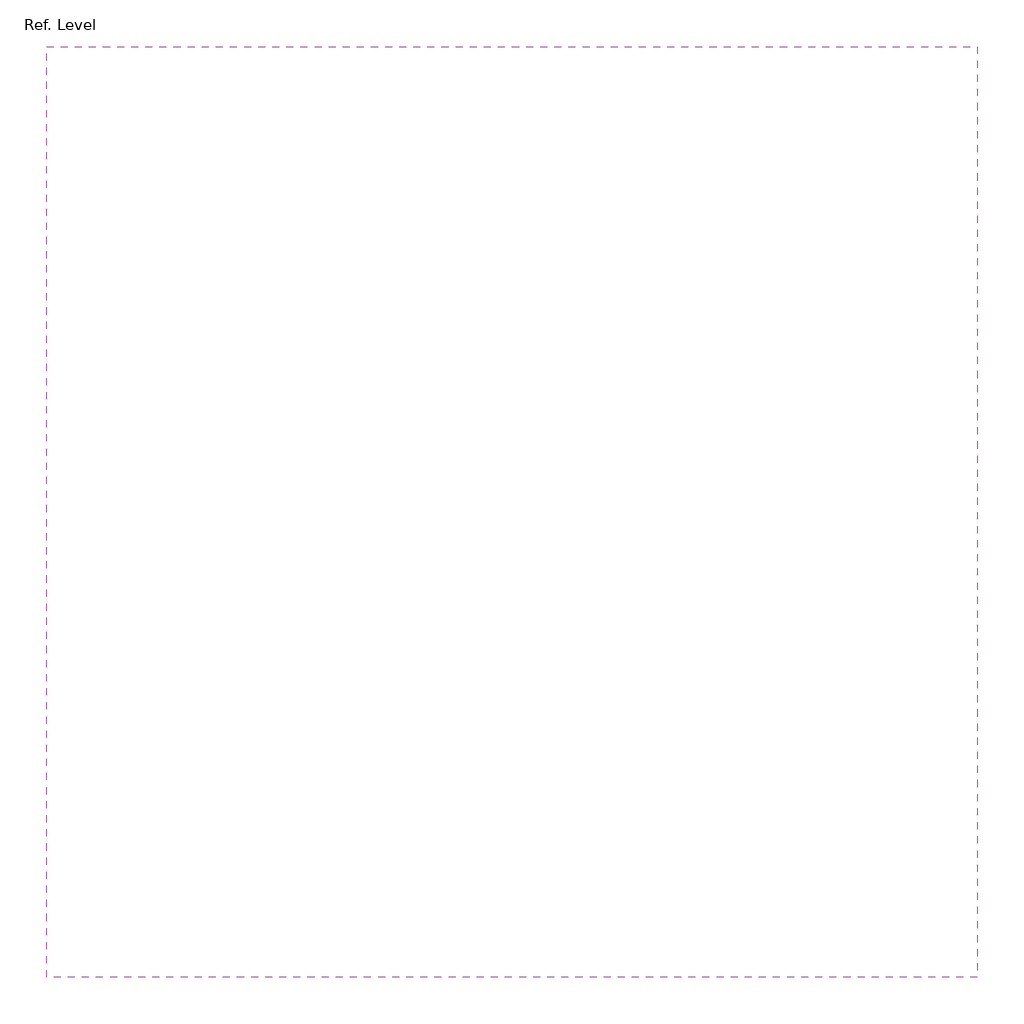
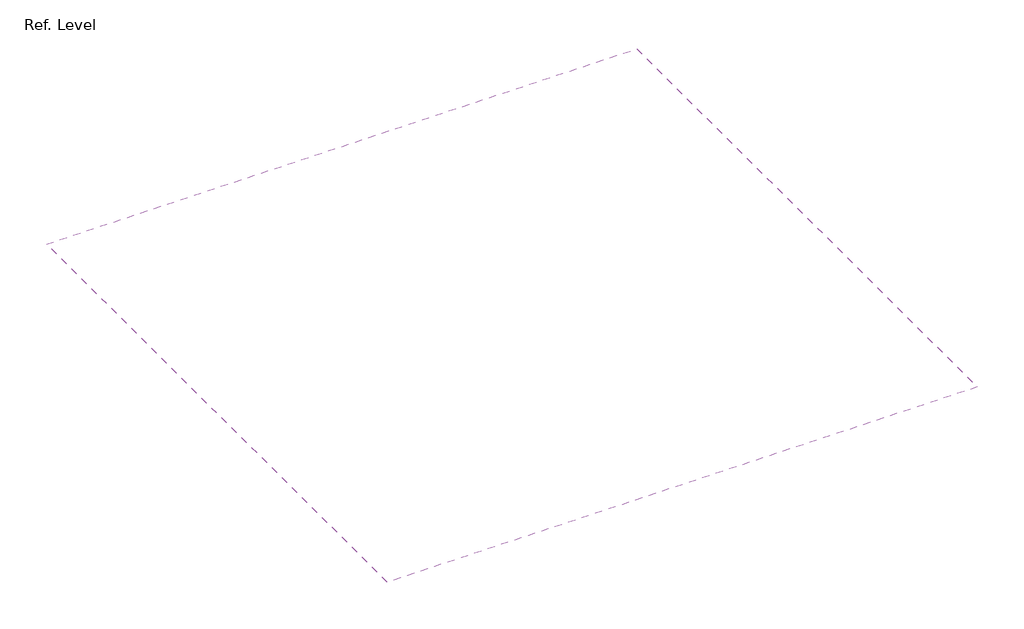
# One storey: 1 covering.
"""IFC4 building model written with IfcOpenShell, lengths in millimetres."""

import ifcopenshell
import ifcopenshell.guid

model = None  # the IFC model being written
_history = None  # IfcOwnerHistory: only IFC2X3 demands one
_inside = {}  # id of a spatial element -> (the spatial element, [elements in it])
_under = {}  # id of a project, library or spatial element -> (it, [spatial elements below it])
_declared = {}  # id of a project -> (the project, [libraries it declares])
_typed = {}  # id of a type object -> (the type object, [elements of that type])
_made_of = {}  # id of a material, layer set ... -> (it, [elements and type objects made of it])


def new_model(schema):
    """Start an empty IFC model of exactly this schema.

    Asked for "IFC4X3", IfcOpenShell would pick the latest addendum, in which some entities
    have other attributes; the version numbers below select the first issue.
    IFC2X3 requires an IfcOwnerHistory on every rooted entity: one is made here for all.
    """
    global model, _history
    if schema == "IFC4X3":
        model = ifcopenshell.file(schema_version=(4, 3, 0, 0))
    else:
        model = ifcopenshell.file(schema=schema)
    _inside.clear()
    _under.clear()
    _declared.clear()
    _typed.clear()
    _made_of.clear()
    _history = None
    if model.schema == "IFC2X3":
        org = make("IfcOrganization", Name="unknown")
        user = make(
            "IfcPersonAndOrganization",
            ThePerson=make("IfcPerson", FamilyName="unknown"),
            TheOrganization=org,
        )
        app = make(
            "IfcApplication",
            ApplicationDeveloper=org,
            Version="unknown",
            ApplicationFullName="unknown",
            ApplicationIdentifier="unknown",
        )
        _history = make(
            "IfcOwnerHistory",
            OwningUser=user,
            OwningApplication=app,
            ChangeAction="ADDED",
            CreationDate=0,
        )
    return model


def make(cls, **values):
    """One entity of the class cls with the attributes given. An attribute that is None is left unset."""
    return model.create_entity(
        cls, **{name: value for name, value in values.items() if value is not None}
    )


def rooted(cls, **values):
    """An entity with a GlobalId (a new one), such as an element, a storey or a relation."""
    return make(cls, GlobalId=ifcopenshell.guid.new(), OwnerHistory=_history, **values)


def si_unit(unit_type, name, prefix=None):
    """IfcSIUnit, for example si_unit("LENGTHUNIT", "METRE", prefix="MILLI")."""
    return make("IfcSIUnit", UnitType=unit_type, Prefix=prefix, Name=name)


def assignment(units):
    """IfcUnitAssignment: the units of a project."""
    return None if units is None else make("IfcUnitAssignment", Units=units)


def point(xyz):
    """IfcCartesianPoint."""
    return None if xyz is None else make("IfcCartesianPoint", Coordinates=xyz)


def direction(xyz):
    """IfcDirection."""
    return None if xyz is None else make("IfcDirection", DirectionRatios=xyz)


def frame(location, z_axis=None, x_axis=None):
    """IfcAxis2Placement3D, a coordinate frame: its origin and axes. An axis left out is left unset."""
    return make(
        "IfcAxis2Placement3D",
        Location=point(location),
        Axis=direction(z_axis),
        RefDirection=direction(x_axis),
    )


def origin():
    """The frame at (0, 0, 0) with its axes left unset."""
    return frame((0.0, 0.0, 0.0))


def place(relative_to, where):
    """IfcLocalPlacement: puts the frame where relative to a parent placement (None: the world)."""
    return make(
        "IfcLocalPlacement", PlacementRelTo=relative_to, RelativePlacement=where
    )


def context(
    kind, dimensions, precision=None, world=None, true_north=None, identifier=None
):
    """IfcGeometricRepresentationContext, for example the 3D "Model" context."""
    return make(
        "IfcGeometricRepresentationContext",
        ContextIdentifier=identifier,
        ContextType=kind,
        CoordinateSpaceDimension=dimensions,
        Precision=precision,
        WorldCoordinateSystem=world,
        TrueNorth=true_north,
    )


def project(units=None, contexts=None):
    """IfcProject with its units and contexts."""
    return rooted(
        "IfcProject",
        Name="project",
        RepresentationContexts=contexts,
        UnitsInContext=assignment(units),
    )


def spatial(cls, under=None, at=None, **own):
    """A site, building, storey or space (cls), placed at a placement, below another one or the project."""
    s = rooted(cls, ObjectPlacement=at, **own)
    if under is not None:
        _under.setdefault(under.id(), (under, []))[1].append(s)
    return s


def polyline(points):
    """IfcPolyline through the points."""
    return make("IfcPolyline", Points=[point(p) for p in points])


def outline(outer, holes=None, kind="AREA"):
    """IfcArbitraryClosedProfileDef: a profile drawn as a closed curve; with holes, ...WithVoids."""
    if holes is None:
        return make("IfcArbitraryClosedProfileDef", ProfileType=kind, OuterCurve=outer)
    return make(
        "IfcArbitraryProfileDefWithVoids",
        ProfileType=kind,
        OuterCurve=outer,
        InnerCurves=holes,
    )


def extrude(swept, where, along, depth):
    """IfcExtrudedAreaSolid: the profile swept, set in the frame where, extruded along a direction by depth."""
    return make(
        "IfcExtrudedAreaSolid",
        SweptArea=swept,
        Position=where,
        ExtrudedDirection=direction(along),
        Depth=depth,
    )


def shape(context_of_items, identifier, shape_type, items):
    """IfcShapeRepresentation: the items that make up one representation, for example the "Body"."""
    return make(
        "IfcShapeRepresentation",
        ContextOfItems=context_of_items,
        RepresentationIdentifier=identifier,
        RepresentationType=shape_type,
        Items=items,
    )


def made_of(thing, what):
    """Note that an element or type object is made of a material, layer set ...; save() writes the relation."""
    if what is not None:
        _made_of.setdefault(what.id(), (what, []))[1].append(thing)
    return thing


def element(
    cls,
    number,
    at=None,
    inside=None,
    cuts=None,
    type_object=None,
    material=None,
    context=None,
    identifier="Body",
    shape_type=None,
    held_by="IfcProductDefinitionShape",
    body=None,
    shapes=None,
    **own,
):
    """One element of the class cls, such as IfcWall. Its Tag is "e" and its number.

    at: its placement. inside: the storey or other place that contains it. cuts: it is an
    opening in that element (IfcRelVoidsElement). A single representation is given by context,
    identifier, shape_type and body (its items); several are given by shapes. held_by: the class
    of the entity that holds the representations. save() writes the other relations.
    """
    e = rooted(cls, Tag="e%d" % number, ObjectPlacement=at, **own)
    if body is not None:
        shapes = [shape(context, identifier, shape_type, body)]
    if shapes is not None:
        e.Representation = make(held_by, Representations=shapes)
    if inside is not None:
        _inside.setdefault(inside.id(), (inside, []))[1].append(e)
    if cuts is not None:
        rooted(
            "IfcRelVoidsElement", RelatingBuildingElement=cuts, RelatedOpeningElement=e
        )
    if type_object is not None:
        _typed.setdefault(type_object.id(), (type_object, []))[1].append(e)
    return made_of(e, material)


def aggregate(whole, parts):
    """IfcRelAggregates: a whole, such as a stair, and the parts it consists of."""
    return rooted("IfcRelAggregates", RelatingObject=whole, RelatedObjects=parts)


def save(model, path):
    """Write the relations noted so far, then the file.

    IfcRelAggregates (storeys below a building ...), IfcRelContainedInSpatialStructure (elements
    in a storey), IfcRelDefinesByType, IfcRelAssociatesMaterial and IfcRelDeclares: one each for
    every whole, place, type object, material and project.
    """
    for whole, parts in _under.values():
        aggregate(whole, parts)
    for where, things in _inside.values():
        rooted(
            "IfcRelContainedInSpatialStructure",
            RelatedElements=things,
            RelatingStructure=where,
        )
    for kind, things in _typed.values():
        rooted("IfcRelDefinesByType", RelatedObjects=things, RelatingType=kind)
    for what, things in _made_of.values():
        rooted("IfcRelAssociatesMaterial", RelatedObjects=things, RelatingMaterial=what)
    for by, libraries in _declared.values():
        rooted("IfcRelDeclares", RelatingContext=by, RelatedDefinitions=libraries)
    model.write(path)


model = new_model("IFC4")

# Units and contexts
model_context = context("Model", 3, world=origin())
ifc_project = project(units=[si_unit("LENGTHUNIT", "METRE", prefix="MILLI")], contexts=[model_context])

# Site, building, storey
site = spatial("IfcSite", under=ifc_project)
building = spatial("IfcBuilding", under=site)
storey = spatial("IfcBuildingStorey", under=building, Name="Ref. Level", Elevation=0.0)

# Covering
placement = place(None, origin())
element("IfcCovering", 1, ObjectType="Ceiling System - Armstrong Ceilings - DesignFlex Shapes - Pattern 004", at=placement, inside=storey, context=model_context, shape_type="SweptSolid", body=[
    extrude(outline(polyline([(24166.9933174, -1931.717161), (24166.9933174, -14123.717161), (11974.9933174, -14123.717161), (11974.9933174, -1931.717161), (24166.9933174, -1931.717161)])), frame((0.0, 0.0, 2438.4), z_axis=(0.0, 0.0, 1.0), x_axis=(1.0, 0.0, 0.0)), (0.0, 0.0, 1.0), 49.3117187),
])

save(model, "model.ifc")
